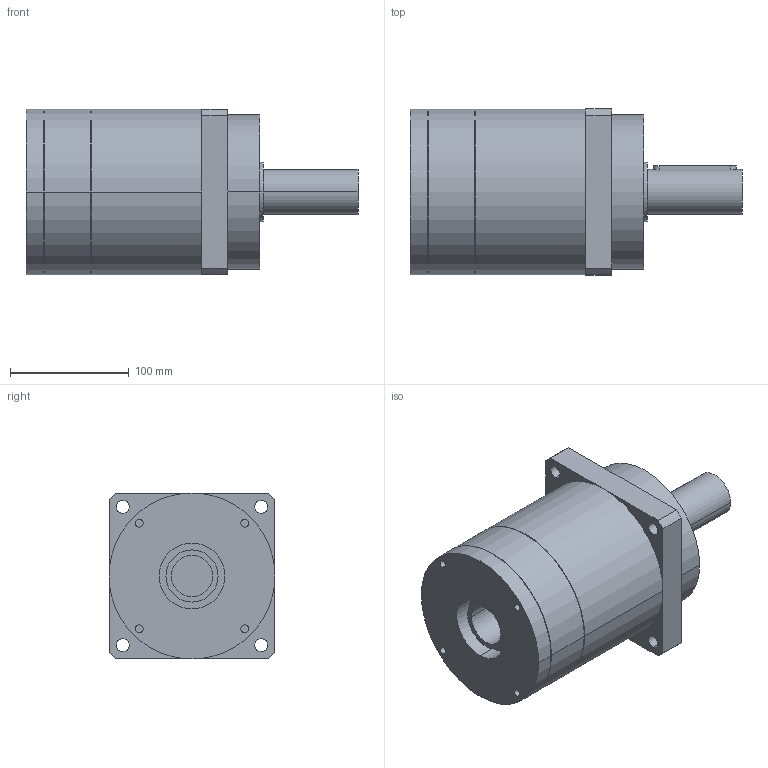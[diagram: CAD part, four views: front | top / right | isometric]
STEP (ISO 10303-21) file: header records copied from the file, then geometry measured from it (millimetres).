
FILE_DESCRIPTION(('CoCreate Modeling STEP Export'),'2;1');
FILE_NAME('GPR150_ig-3-4-5-7_38_B5_35_P01.stp','2014-08-19T16:43:09',(''),(''),'CoCreate Modeling STEP processor for AP214 (Solid Model)','CoCreate Modeling 16.00C 25-Feb-2009 (C) Parametric Technology GmbH','');
FILE_SCHEMA(('AUTOMOTIVE_DESIGN { 1 0 10303 214 1 1 1 1 }'));
Length unit declared in the file: millimetre
Products named in the file (2): GPR150_ig-3-4-5-7_38_B5_35_P01
Assembly tree (1 placements, depth 2):
  GPR150_ig-3-4-5-7_38_B5_35_P01
    GPR150_ig-3-4-5-7_38_B5_35_P01
Bounding box: 280 x 140 x 140 mm (x, y, z)
Volume: 3054002.2 mm3; surface area: 155015.8 mm2
Topology: 1 solids, 1 shells, 85 faces, 216 edges, 148 vertices
Faces by surface type: cylinder 50, plane 29, cone 6
Entity records: 2252 total; most frequent: ORIENTED_EDGE 428, CARTESIAN_POINT 414, DIRECTION 310, EDGE_CURVE 214, VERTEX_POINT 148, AXIS2_PLACEMENT_3D 116, EDGE_LOOP 110, FACE_OUTER_BOUND 85
